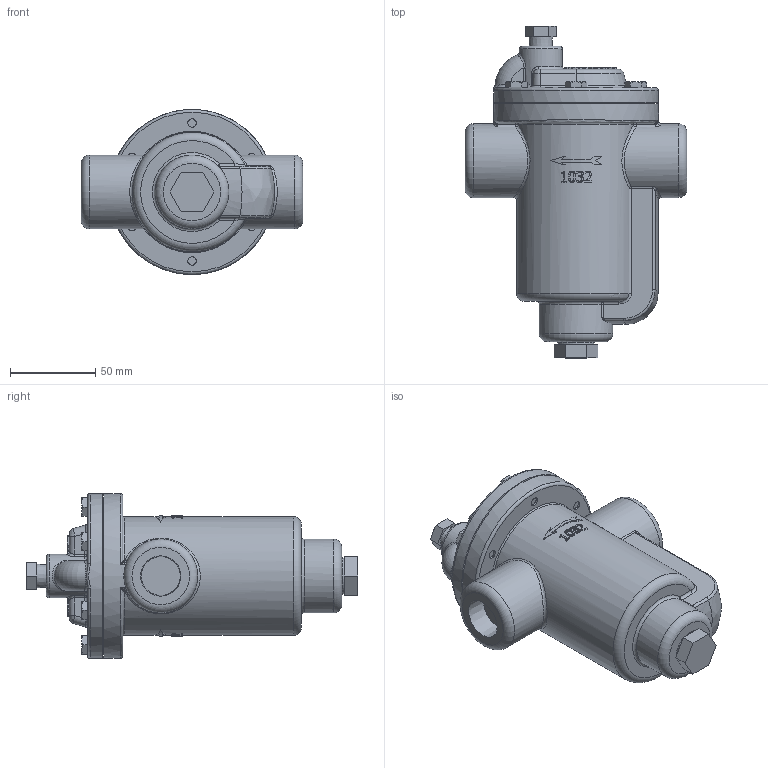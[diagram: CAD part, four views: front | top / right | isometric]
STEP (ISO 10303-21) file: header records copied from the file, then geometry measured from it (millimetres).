
FILE_DESCRIPTION(/* description */ (''),/* implementation_level */ '2;1');
FILE_NAME(/* name */ 'C:\Users\wm_kcarroll\Documents\STEP FILES\IB1032-13-N.stp',/* time_stamp */ '2017-07-14T15:21:01-04:00',/* author */ ('wm_kcarroll'),/* organization */ (''),/* preprocessor_version */ 'ST-DEVELOPER v16.5',/* originating_system */ 'Autodesk Inventor 2017',/* authorisation */ '');
FILE_SCHEMA (('AUTOMOTIVE_DESIGN { 1 0 10303 214 3 1 1 }'));
Length unit declared in the file: inch
Products named in the file (1): IB1032-13-N
Bounding box: 130.18 x 194.8 x 96.84 mm (x, y, z)
Volume: 751570.7 mm3; surface area: 68700.4 mm2
Topology: 1 solids, 1 shells, 768 faces, 1969 edges, 1253 vertices
Faces by surface type: plane 345, bspline 247, cylinder 90, cone 53, torus 21, sphere 12
Full cylindrical faces by diameter (mm): 4.978 x6, 6.35 x6, 21.535 x1, 25.4 x1, 43.259 x3, 96.837 x2
Entity records: 27915 total; most frequent: CARTESIAN_POINT 10354, ORIENTED_EDGE 3876, DIRECTION 2742, EDGE_CURVE 1932, VERTEX_POINT 1241, LINE 1036, VECTOR 1036, AXIS2_PLACEMENT_3D 853
